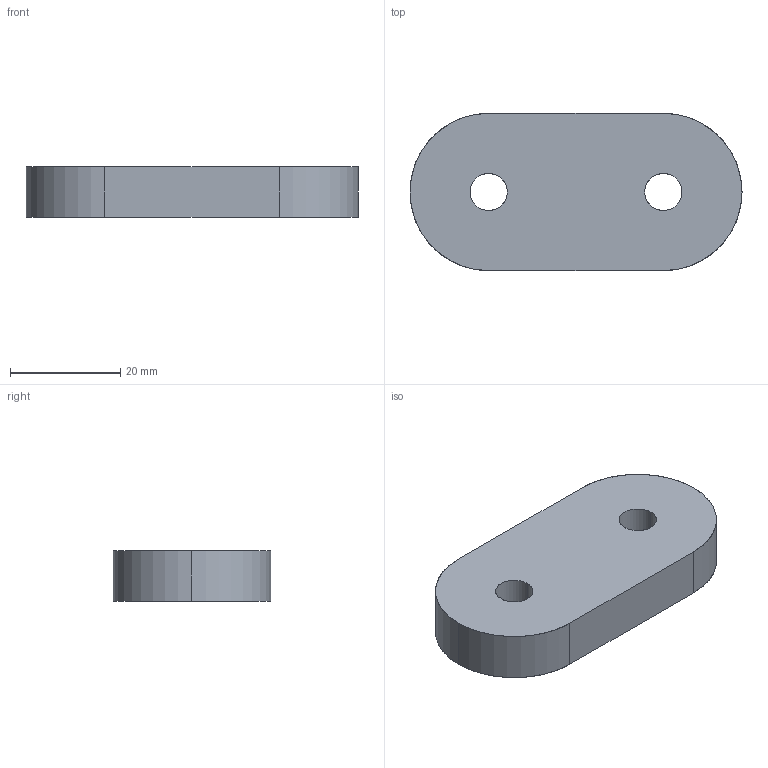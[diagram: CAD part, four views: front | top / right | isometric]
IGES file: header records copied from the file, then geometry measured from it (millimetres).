
Start section: SolidWorks IGES file using analytic representation for surfaces
Global section: file name: \\SERVER3\Design\_New Design Drive Folder List\_Design Vault\AAI\Modular Round Tube Connectors\Solidworks Models\STP Files\12202013\1.000 Inch Modular Connectors\DRP-002-0525-00.IGS; native system: SolidWorks 2013; preprocessor: SolidWorks 2013; author: tbraun; date: 131220.115623; units: inch
Bounding box: 60.33 x 28.57 x 9.14 mm (x, y, z)
Surface area: 4743.4 mm2 (no closed solid volume)
Topology: 0 solids, 0 shells, 11 faces, 296 edges, 296 vertices
Faces by surface type: revolution 7, bspline 4
